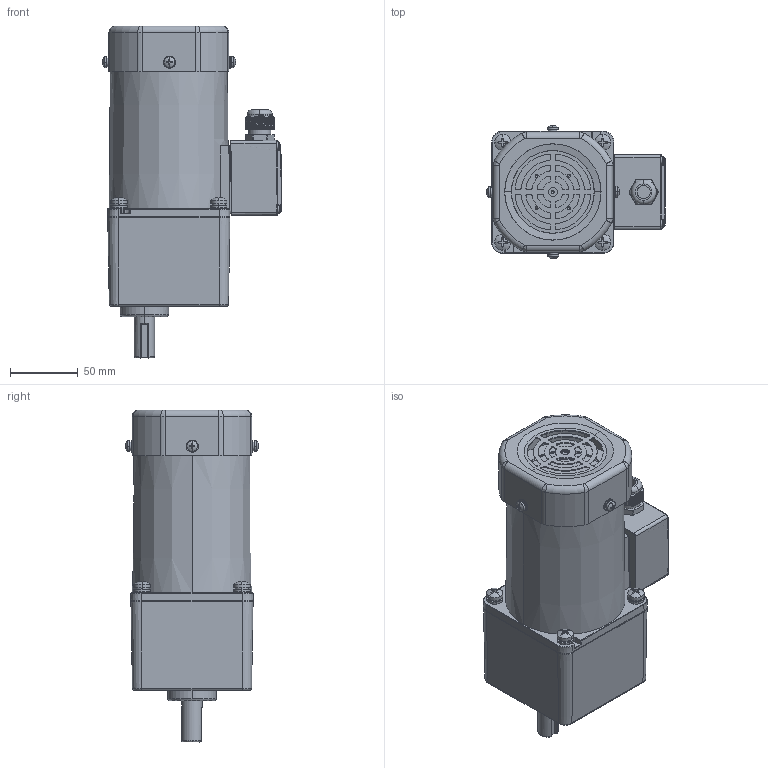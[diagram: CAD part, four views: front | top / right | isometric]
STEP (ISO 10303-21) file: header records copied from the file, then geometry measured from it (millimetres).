
FILE_DESCRIPTION (( 'STEP AP203' ), '1' );
FILE_NAME ('5IK120GU-CFT(5GU3KB-200KB).STEP', '2023-08-09T02:45:12', ( 'Windows User' ), ( 'P R C' ), 'SwSTEP 2.0', 'SolidWorks 2019', '' );
FILE_SCHEMA (( 'CONFIG_CONTROL_DESIGN' ));
Length unit declared in the file: millimetre
Products named in the file (15): 5GU3KB-200KB^5IK120GU-CFT(5GU3KB-200KB)(2)_5IK120GU-CFT(5GU3KB-200KB); ^___5IK120GU-CFT(5GU3KB-200KB)(2)_5IK120GU-CFT(5GU3KB-200KB); 葩璃 (6) ^____5IK120GU-CFT(5GU3KB-200KB)(2)_5IK120GU-CFT(5GU3KB-200KB); 葩璃 (3) ^____5IK120GU-CFT(5GU3KB-200KB)(2)_5IK120GU-CFT(5GU3KB-200KB); 葩璃 (2) ^____5IK120GU-CFT(5GU3KB-200KB)(2)_5IK120GU-CFT(5GU3KB-200KB); 葩璃 (5) ^____5IK120GU-CFT(5GU3KB-200KB)(2)_5IK120GU-CFT(5GU3KB-200KB); 5IK120GU-CFT(5GU3KB-200KB); 5IK120GU-CFT(5GU3KB-200KB)(2)^5IK120GU-CFT(5GU3KB-200KB); ^_5IK120GU-CFT(5GU3KB-200KB)(2)_5IK120GU-CFT(5GU3KB-200KB); ^__5IK120GU-CFT(5GU3KB-200KB)(2)_5IK120GU-CFT(5GU3KB-200KB); ^____5IK120GU-CFT(5GU3KB-200KB)(2)_5IK120GU-CFT(5GU3KB-200KB); 葩璃 (2) ^__5IK120GU-CFT(5GU3KB-200KB)(2)_5IK120GU-CFT(5GU3KB-200KB); ^5IK120GU-CFT(5GU3KB-200KB)(2)_5IK120GU-CFT(5GU3KB-200KB); 葩璃 (4) ^____5IK120GU-CFT(5GU3KB-200KB)(2)_5IK120GU-CFT(5GU3KB-200KB)
Assembly tree (14 placements, depth 7):
  5IK120GU-CFT(5GU3KB-200KB)
    5IK120GU-CFT(5GU3KB-200KB)(2)^5IK120GU-CFT(5GU3KB-200KB)
      ^5IK120GU-CFT(5GU3KB-200KB)(2)_5IK120GU-CFT(5GU3KB-200KB)
        ^_5IK120GU-CFT(5GU3KB-200KB)(2)_5IK120GU-CFT(5GU3KB-200KB)
          ^__5IK120GU-CFT(5GU3KB-200KB)(2)_5IK120GU-CFT(5GU3KB-200KB)
            ^___5IK120GU-CFT(5GU3KB-200KB)(2)_5IK120GU-CFT(5GU3KB-200KB)
              ^____5IK120GU-CFT(5GU3KB-200KB)(2)_5IK120GU-CFT(5GU3KB-200KB)
              葩璃 (2) ^____5IK120GU-CFT(5GU3KB-200KB)(2)_5IK120GU-CFT(5GU3KB-200KB)
              葩璃 (3) ^____5IK120GU-CFT(5GU3KB-200KB)(2)_5IK120GU-CFT(5GU3KB-200KB)
              葩璃 (4) ^____5IK120GU-CFT(5GU3KB-200KB)(2)_5IK120GU-CFT(5GU3KB-200KB)
              葩璃 (5) ^____5IK120GU-CFT(5GU3KB-200KB)(2)_5IK120GU-CFT(5GU3KB-200KB)
              葩璃 (6) ^____5IK120GU-CFT(5GU3KB-200KB)(2)_5IK120GU-CFT(5GU3KB-200KB)
          ^__5IK120GU-CFT(5GU3KB-200KB)(2)_5IK120GU-CFT(5GU3KB-200KB)
          葩璃 (2) ^__5IK120GU-CFT(5GU3KB-200KB)(2)_5IK120GU-CFT(5GU3KB-200KB)
      5GU3KB-200KB^5IK120GU-CFT(5GU3KB-200KB)(2)_5IK120GU-CFT(5GU3KB-200KB)
Bounding box: 131.82 x 98.11 x 244.5 mm (x, y, z)
Volume: 1371603 mm3; surface area: 157576.2 mm2
Topology: 36 solids, 36 shells, 1796 faces, 4629 edges, 2913 vertices
Faces by surface type: cylinder 711, plane 473, cone 371, torus 107, sphere 72, bspline 62
Entity records: 62291 total; most frequent: CARTESIAN_POINT 16382, DIRECTION 9922, ORIENTED_EDGE 9158, EDGE_CURVE 4579, AXIS2_PLACEMENT_3D 4097, VERTEX_POINT 2909, CIRCLE 2341, EDGE_LOOP 1918
